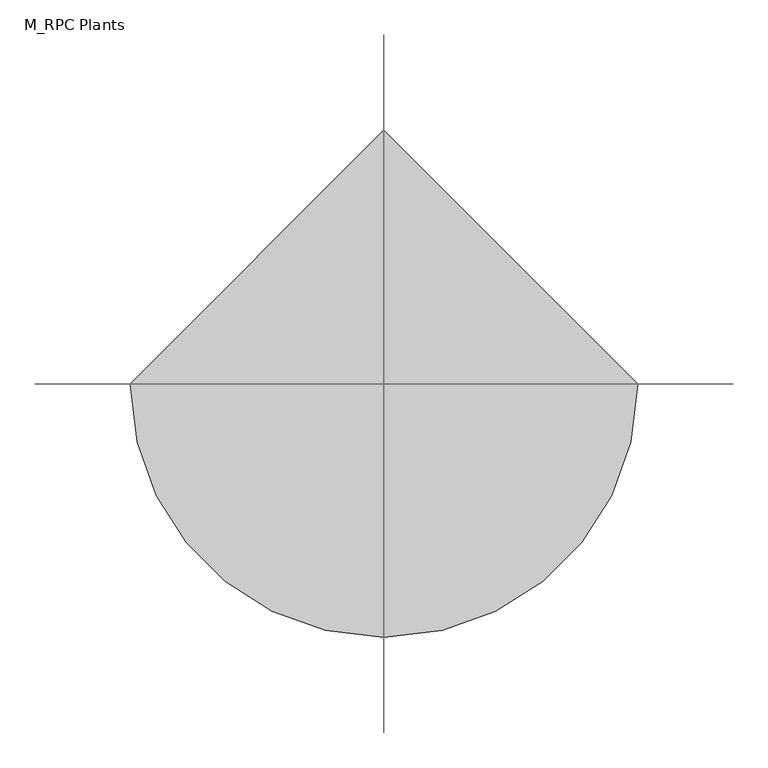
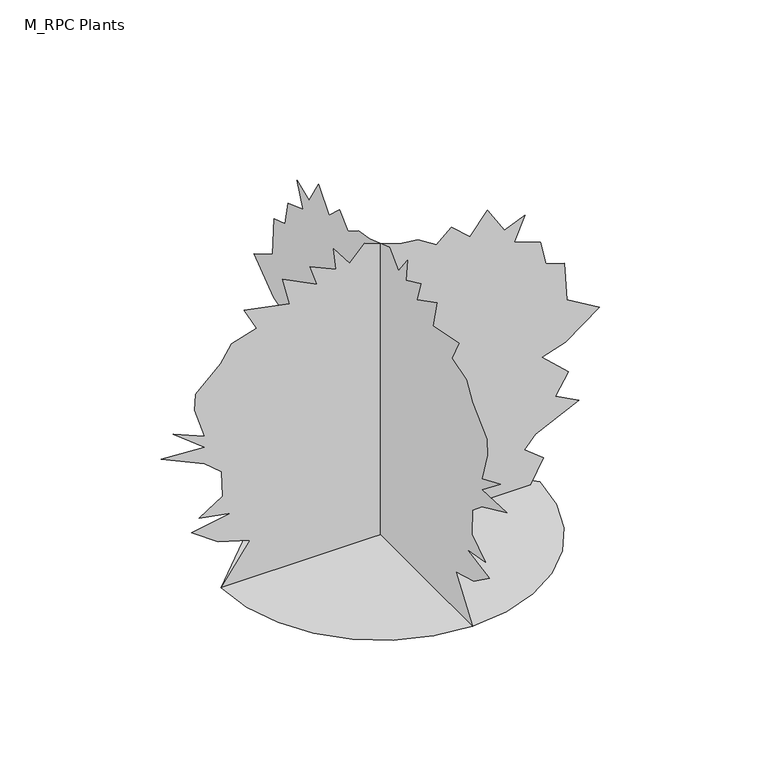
"""IFC4 building model written with IfcOpenShell, lengths in millimetres: proxy geometry, M_RPC Plants : Oleander."""

import ifcopenshell
import ifcopenshell.guid

model = None  # the IFC model being written
_history = None  # IfcOwnerHistory: only IFC2X3 demands one
_inside = {}  # id of a spatial element -> (the spatial element, [elements in it])
_under = {}  # id of a project, library or spatial element -> (it, [spatial elements below it])
_declared = {}  # id of a project -> (the project, [libraries it declares])
_typed = {}  # id of a type object -> (the type object, [elements of that type])
_made_of = {}  # id of a material, layer set ... -> (it, [elements and type objects made of it])


def new_model(schema):
    """Start an empty IFC model of exactly this schema.

    Asked for "IFC4X3", IfcOpenShell would pick the latest addendum, in which some entities
    have other attributes; the version numbers below select the first issue.
    IFC2X3 requires an IfcOwnerHistory on every rooted entity: one is made here for all.
    """
    global model, _history
    if schema == "IFC4X3":
        model = ifcopenshell.file(schema_version=(4, 3, 0, 0))
    else:
        model = ifcopenshell.file(schema=schema)
    _inside.clear()
    _under.clear()
    _declared.clear()
    _typed.clear()
    _made_of.clear()
    _history = None
    if model.schema == "IFC2X3":
        org = make("IfcOrganization", Name="unknown")
        user = make(
            "IfcPersonAndOrganization",
            ThePerson=make("IfcPerson", FamilyName="unknown"),
            TheOrganization=org,
        )
        app = make(
            "IfcApplication",
            ApplicationDeveloper=org,
            Version="unknown",
            ApplicationFullName="unknown",
            ApplicationIdentifier="unknown",
        )
        _history = make(
            "IfcOwnerHistory",
            OwningUser=user,
            OwningApplication=app,
            ChangeAction="ADDED",
            CreationDate=0,
        )
    return model


def make(cls, **values):
    """One entity of the class cls with the attributes given. An attribute that is None is left unset."""
    return model.create_entity(
        cls, **{name: value for name, value in values.items() if value is not None}
    )


def rooted(cls, **values):
    """An entity with a GlobalId (a new one), such as an element, a storey or a relation."""
    return make(cls, GlobalId=ifcopenshell.guid.new(), OwnerHistory=_history, **values)


def si_unit(unit_type, name, prefix=None):
    """IfcSIUnit, for example si_unit("LENGTHUNIT", "METRE", prefix="MILLI")."""
    return make("IfcSIUnit", UnitType=unit_type, Prefix=prefix, Name=name)


def assignment(units):
    """IfcUnitAssignment: the units of a project."""
    return None if units is None else make("IfcUnitAssignment", Units=units)


def point(xyz):
    """IfcCartesianPoint."""
    return None if xyz is None else make("IfcCartesianPoint", Coordinates=xyz)


def direction(xyz):
    """IfcDirection."""
    return None if xyz is None else make("IfcDirection", DirectionRatios=xyz)


def frame(location, z_axis=None, x_axis=None):
    """IfcAxis2Placement3D, a coordinate frame: its origin and axes. An axis left out is left unset."""
    return make(
        "IfcAxis2Placement3D",
        Location=point(location),
        Axis=direction(z_axis),
        RefDirection=direction(x_axis),
    )


def origin():
    """The frame at (0, 0, 0) with its axes left unset."""
    return frame((0.0, 0.0, 0.0))


def place(relative_to, where):
    """IfcLocalPlacement: puts the frame where relative to a parent placement (None: the world)."""
    return make(
        "IfcLocalPlacement", PlacementRelTo=relative_to, RelativePlacement=where
    )


def context(
    kind, dimensions, precision=None, world=None, true_north=None, identifier=None
):
    """IfcGeometricRepresentationContext, for example the 3D "Model" context."""
    return make(
        "IfcGeometricRepresentationContext",
        ContextIdentifier=identifier,
        ContextType=kind,
        CoordinateSpaceDimension=dimensions,
        Precision=precision,
        WorldCoordinateSystem=world,
        TrueNorth=true_north,
    )


def project(units=None, contexts=None):
    """IfcProject with its units and contexts."""
    return rooted(
        "IfcProject",
        Name="project",
        RepresentationContexts=contexts,
        UnitsInContext=assignment(units),
    )


def spatial(cls, under=None, at=None, **own):
    """A site, building, storey or space (cls), placed at a placement, below another one or the project."""
    s = rooted(cls, ObjectPlacement=at, **own)
    if under is not None:
        _under.setdefault(under.id(), (under, []))[1].append(s)
    return s


def point_list(points):
    """IfcCartesianPointList2D or 3D."""
    cls = (
        "IfcCartesianPointList2D" if len(points[0]) == 2 else "IfcCartesianPointList3D"
    )
    return make(cls, CoordList=points)


def triangles(points, corners, closed=None, point_numbers=None):
    """IfcTriangulatedFaceSet: each triangle names its three corners, points numbered from 1."""
    return make(
        "IfcTriangulatedFaceSet",
        Coordinates=point_list(points),
        Closed=closed,
        CoordIndex=corners,
        PnIndex=point_numbers,
    )


def shape(context_of_items, identifier, shape_type, items):
    """IfcShapeRepresentation: the items that make up one representation, for example the "Body"."""
    return make(
        "IfcShapeRepresentation",
        ContextOfItems=context_of_items,
        RepresentationIdentifier=identifier,
        RepresentationType=shape_type,
        Items=items,
    )


def source(mapping_origin, context_of_items, identifier, shape_type, items):
    """IfcRepresentationMap: a shape defined once, which mapped items show again and again."""
    return make(
        "IfcRepresentationMap",
        MappingOrigin=mapping_origin,
        MappedRepresentation=shape(context_of_items, identifier, shape_type, items),
    )


def transform(
    local_origin,
    x_axis=None,
    y_axis=None,
    z_axis=None,
    scale=None,
    scale2=None,
    scale3=None,
    uniform=True,
):
    """IfcCartesianTransformationOperator3D, or its non-uniform kind. x_axis, y_axis, z_axis: its Axis1, 2, 3."""
    if uniform:
        return make(
            "IfcCartesianTransformationOperator3D",
            Axis1=direction(x_axis),
            Axis2=direction(y_axis),
            LocalOrigin=point(local_origin),
            Scale=scale,
            Axis3=direction(z_axis),
        )
    return make(
        "IfcCartesianTransformationOperator3DnonUniform",
        Axis1=direction(x_axis),
        Axis2=direction(y_axis),
        LocalOrigin=point(local_origin),
        Scale=scale,
        Axis3=direction(z_axis),
        Scale2=scale2,
        Scale3=scale3,
    )


def mapped(mapping_source, mapping_target):
    """IfcMappedItem: shows the shape of a source again, moved by a transform."""
    return make(
        "IfcMappedItem", MappingSource=mapping_source, MappingTarget=mapping_target
    )


def made_of(thing, what):
    """Note that an element or type object is made of a material, layer set ...; save() writes the relation."""
    if what is not None:
        _made_of.setdefault(what.id(), (what, []))[1].append(thing)
    return thing


def element(
    cls,
    number,
    at=None,
    inside=None,
    cuts=None,
    type_object=None,
    material=None,
    context=None,
    identifier="Body",
    shape_type=None,
    held_by="IfcProductDefinitionShape",
    body=None,
    shapes=None,
    **own,
):
    """One element of the class cls, such as IfcWall. Its Tag is "e" and its number.

    at: its placement. inside: the storey or other place that contains it. cuts: it is an
    opening in that element (IfcRelVoidsElement). A single representation is given by context,
    identifier, shape_type and body (its items); several are given by shapes. held_by: the class
    of the entity that holds the representations. save() writes the other relations.
    """
    e = rooted(cls, Tag="e%d" % number, ObjectPlacement=at, **own)
    if body is not None:
        shapes = [shape(context, identifier, shape_type, body)]
    if shapes is not None:
        e.Representation = make(held_by, Representations=shapes)
    if inside is not None:
        _inside.setdefault(inside.id(), (inside, []))[1].append(e)
    if cuts is not None:
        rooted(
            "IfcRelVoidsElement", RelatingBuildingElement=cuts, RelatedOpeningElement=e
        )
    if type_object is not None:
        _typed.setdefault(type_object.id(), (type_object, []))[1].append(e)
    return made_of(e, material)


def aggregate(whole, parts):
    """IfcRelAggregates: a whole, such as a stair, and the parts it consists of."""
    return rooted("IfcRelAggregates", RelatingObject=whole, RelatedObjects=parts)


def save(model, path):
    """Write the relations noted so far, then the file.

    IfcRelAggregates (storeys below a building ...), IfcRelContainedInSpatialStructure (elements
    in a storey), IfcRelDefinesByType, IfcRelAssociatesMaterial and IfcRelDeclares: one each for
    every whole, place, type object, material and project.
    """
    for whole, parts in _under.values():
        aggregate(whole, parts)
    for where, things in _inside.values():
        rooted(
            "IfcRelContainedInSpatialStructure",
            RelatedElements=things,
            RelatingStructure=where,
        )
    for kind, things in _typed.values():
        rooted("IfcRelDefinesByType", RelatedObjects=things, RelatingType=kind)
    for what, things in _made_of.values():
        rooted("IfcRelAssociatesMaterial", RelatedObjects=things, RelatingMaterial=what)
    for by, libraries in _declared.values():
        rooted("IfcRelDeclares", RelatingContext=by, RelatedDefinitions=libraries)
    model.write(path)


def m_rpc_plants_e0fef716(model_context):
    return source(origin(), model_context, "Body", "Tessellation", [
        triangles([(-812.5409557, 0.0, 3.62e-05), (-791.0601448, -186.180478, 3.62e-05), (-729.881757, -357.1570149, 3.62e-05), (-633.9078186, -508.0330527, 3.62e-05), (-508.0330527, -633.9078186, 3.62e-05), (-357.1570149, -729.881757, 3.62e-05), (-186.180478, -791.0601448, 3.62e-05), (3.55e-05, -812.5409557, 3.62e-05), (186.180478, -791.0601448, 3.62e-05), (357.1570149, -729.881757, 3.62e-05), (508.0330527, -633.9078186, 3.62e-05), (633.9078186, -508.0330527, 3.62e-05), (729.881757, -357.1570149, 3.62e-05), (791.0601448, -186.180478, 3.62e-05), (812.5409557, 7.1e-05, 3.62e-05), (-0.0001066, 812.5409557, 3.62e-05), (-0.0042747, -811.2988804, 0.0001209), (-0.0042708, -665.7314575, 204.5081021), (-0.004267, -827.900338, 251.4511125), (-0.004262, -964.4608978, 349.6056227), (-0.004264, -763.884696, 383.7457626), (-0.0042607, -926.0535765, 413.6186849), (-0.0042602, -806.5618149, 490.4333639), (-0.0042562, -810.8289963, 622.7267424), (-0.0042527, -896.1806179, 695.2767471), (-0.0042464, -1118.0927994, 797.697167), (-0.0042501, -896.1806179, 784.8930794), (-0.0042438, -1058.3468822, 912.9192038), (-0.0042483, -896.1806179, 844.6389238), (-0.0042428, -947.3895561, 1002.5380068), (-0.0042404, -943.1223747, 1087.8896284), (-0.0042387, -815.0961777, 1207.38139), (-0.0042368, -759.6175146, 1297.000193), (-0.0042376, -631.5913176, 1335.4075871), (-0.0042331, -695.6044161, 1454.899276), (-0.0042379, -465.1578355, 1407.9550484), (-0.0042331, -499.2979754, 1553.0525871), (-0.0042384, -324.3300579, 1463.4337841), (-0.0042347, -358.4701979, 1570.1213127), (-0.0042384, -226.175584, 1510.3755409), (-0.0042348, -238.9782001, 1625.6000484), (-0.0042392, -157.8947954, 1518.9123745), (-0.0042379, -81.0790899, 1599.9943439), (-0.0042425, 98.1577985, 1535.9812454), (-0.0042443, 192.0433106, 1523.1795559), (-0.0042475, 285.9303487, 1463.4337841), (-0.0042466, 362.7450459, 1531.714064), (-0.0042505, 456.6310667, 1446.3624424), (-0.0042486, 546.2498697, 1557.3197685), (-0.0042539, 631.6014914, 1420.7592087), (-0.0042542, 738.2890926, 1463.4337841), (-0.0042571, 682.8104296, 1339.6747684), (-0.0042604, 815.1063515, 1292.7305408), (-0.0042647, 844.9767666, 1164.7043438), (-0.004267, 938.862751, 1134.8313852), (-0.0042731, 951.6669113, 934.2577269), (-0.0042786, 1118.1004297, 836.104561), (-0.0042798, 943.1324759, 708.078364), (-0.0042791, 823.6407143, 669.6710426), (-0.004285, 960.2012741, 541.6448456), (-0.0042871, 891.9209942, 434.9547009), (-0.0042908, 1011.4127558, 370.9416023), (-0.0042907, 789.5005743, 264.2539829), (-0.0042918, 734.0219112, 200.2406482), (-0.0042955, 832.1751497, 123.4246974), (-0.0042982, 766.4170996, 0.0205859), (-811.3090542, 0.0043453, 0.0), (-665.7416313, 0.0043331, 204.5081021), (-827.9079683, 0.0043303, 251.4511125), (-964.4685282, 0.0043245, 349.6056227), (-763.8948698, 0.0043224, 383.7457626), (-926.0611341, 0.0043206, 413.6186849), (-806.5693726, 0.0043161, 490.4333639), (-810.8366266, 0.0043082, 622.7267424), (-896.1882483, 0.0043039, 695.2742037), (-1118.1004297, 0.0042978, 797.697167), (-896.1882483, 0.0042985, 784.8930794), (-1058.3545126, 0.0042909, 912.9192038), (-896.1882483, 0.004295, 844.6389238), (-947.3997299, 0.0042855, 1002.5380068), (-943.1299324, 0.0042805, 1087.8896284), (-815.1063515, 0.0042733, 1207.38139), (-759.6276884, 0.004268, 1297.000193), (-631.6014914, 0.0042657, 1335.4075871), (-695.6145899, 0.0042586, 1454.899276), (-465.1654658, 0.0042614, 1407.9550484), (-499.3056058, 0.0042527, 1553.0525871), (-324.3376883, 0.0042581, 1463.4337841), (-358.4778282, 0.0042517, 1570.1213127), (-226.1839592, 0.0042553, 1510.3755409), (-238.9868297, 0.0042484, 1625.6000484), (-157.903425, 0.0042548, 1518.9123745), (-81.0877285, 0.0042499, 1599.9943439), (98.1491599, 0.0042537, 1535.9812454), (192.034681, 0.0042545, 1523.1795559), (285.9201931, 0.0042581, 1463.4337841), (362.7374156, 0.004254, 1531.714064), (456.6234364, 0.0042591, 1446.3624424), (546.2422394, 0.0042525, 1557.3197685), (631.5913176, 0.0042606, 1420.7565926), (738.281535, 0.0042581, 1463.4337841), (682.8027992, 0.0042654, 1339.6747684), (815.0961777, 0.0042682, 1292.7305408), (844.9691362, 0.0042759, 1164.7043438), (938.8551207, 0.0042777, 1134.8313852), (951.6567375, 0.0042896, 934.2577269), (1118.0927994, 0.0042955, 836.104561), (943.1223747, 0.0043031, 708.078364), (823.6306131, 0.0043054, 669.6710426), (960.1937164, 0.004313, 541.6448456), (891.9134365, 0.0043194, 434.9547009), (1011.4026546, 0.0043232, 370.9416023), (789.4904732, 0.0043296, 264.2539829), (734.0142809, 0.0043334, 200.2403938), (832.1675194, 0.0043379, 123.4246974), (766.4094692, 0.0043453, 0.020512)], [[15, 16, 1], [14, 15, 1], [14, 1, 2], [13, 14, 2], [13, 2, 3], [13, 3, 4], [12, 13, 4], [11, 12, 4], [11, 4, 5], [11, 5, 6], [11, 6, 7], [11, 7, 8], [11, 8, 9], [11, 9, 10], [27, 28, 29], [25, 26, 27], [40, 41, 42], [21, 22, 23], [50, 51, 52], [19, 20, 21], [38, 39, 40], [36, 37, 38], [34, 35, 36], [61, 62, 63], [66, 17, 18], [56, 57, 58], [48, 49, 50], [18, 19, 21], [46, 47, 48], [64, 65, 66], [59, 60, 61], [56, 58, 59], [54, 55, 56], [42, 43, 44], [52, 53, 54], [54, 56, 59], [24, 25, 27], [48, 50, 52], [59, 61, 63], [52, 54, 59], [48, 52, 59], [46, 48, 59], [66, 18, 21], [30, 31, 32], [29, 30, 32], [66, 21, 23], [66, 23, 24], [64, 66, 24], [63, 64, 24], [59, 63, 24], [46, 59, 24], [45, 46, 24], [44, 45, 24], [42, 44, 24], [40, 42, 24], [38, 40, 24], [36, 38, 24], [34, 36, 24], [34, 24, 27], [34, 27, 29], [34, 29, 32], [33, 34, 32], [77, 78, 79], [75, 76, 77], [90, 91, 92], [71, 72, 73], [100, 101, 102], [69, 70, 71], [88, 89, 90], [86, 87, 88], [84, 85, 86], [111, 112, 113], [116, 67, 68], [106, 107, 108], [98, 99, 100], [68, 69, 71], [96, 97, 98], [114, 115, 116], [109, 110, 111], [106, 108, 109], [104, 105, 106], [92, 93, 94], [102, 103, 104], [104, 106, 109], [74, 75, 77], [98, 100, 102], [109, 111, 113], [102, 104, 109], [98, 102, 109], [96, 98, 109], [116, 68, 71], [80, 81, 82], [79, 80, 82], [116, 71, 73], [116, 73, 74], [114, 116, 74], [113, 114, 74], [109, 113, 74], [96, 109, 74], [95, 96, 74], [94, 95, 74], [92, 94, 74], [90, 92, 74], [88, 90, 74], [86, 88, 74], [84, 86, 74], [84, 74, 77], [84, 77, 79], [84, 79, 82], [83, 84, 82]], closed=False),
    ])


if __name__ == "__main__":
    model = new_model("IFC4")
    model_context = context("Model", 3, world=origin())
    ifc_project = project(units=[si_unit("LENGTHUNIT", "METRE", prefix="MILLI")], contexts=[model_context])
    site = spatial("IfcSite", under=ifc_project)
    building = spatial("IfcBuilding", under=site)
    placement = place(None, origin())
    m_rpc_plants_shape = m_rpc_plants_e0fef716(model_context)
    element("IfcBuildingElementProxy", 1, Name="M_RPC Plants : Oleander", ObjectType="M_RPC Plants : Oleander", at=placement, inside=building, context=model_context, shape_type="MappedRepresentation", body=[
        mapped(m_rpc_plants_shape, transform((0.0, 0.0, 0.0), x_axis=(1.0, 0.0, 0.0), y_axis=(0.0, 1.0, 0.0), z_axis=(0.0, 0.0, 1.0))),
    ])
    save(model, "model.ifc")
